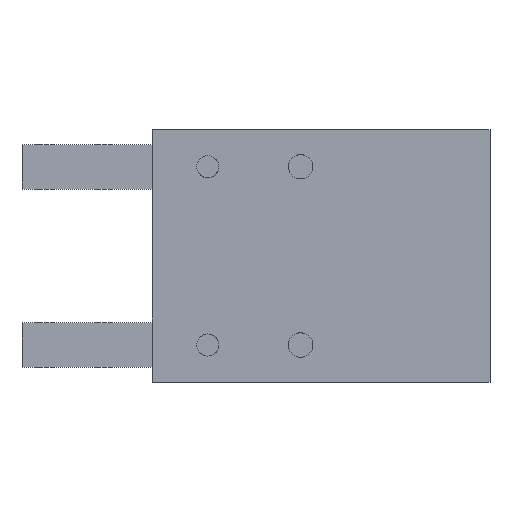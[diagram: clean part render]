
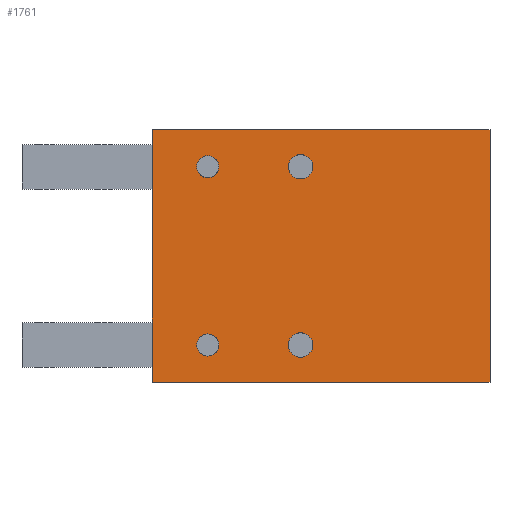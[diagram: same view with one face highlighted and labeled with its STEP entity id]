
A CAD part, top view. The second image highlights one B-rep face of the part: STEP entity #1761.
In plain terms, the highlighted planar face has unit normal (0, 0, 1).
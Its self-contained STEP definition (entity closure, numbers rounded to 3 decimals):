
#1 = ORIENTED_EDGE ( 'NONE', *, *, #929, .T. ) ;
#80 = CARTESIAN_POINT ( 'NONE',  ( 22.75, -17., 11. ) ) ;
#144 = ORIENTED_EDGE ( 'NONE', *, *, #2834, .F. ) ;
#226 = CARTESIAN_POINT ( 'NONE',  ( -4.4, 12., 11. ) ) ;
#230 = DIRECTION ( 'NONE',  ( 1., 0., 0. ) ) ;
#231 = DIRECTION ( 'NONE',  ( 1., 0., 0. ) ) ;
#242 = DIRECTION ( 'NONE',  ( 0., 0., 1. ) ) ;
#245 = DIRECTION ( 'NONE',  ( 0., 0., 1. ) ) ;
#249 = ORIENTED_EDGE ( 'NONE', *, *, #847, .F. ) ;
#254 = VERTEX_POINT ( 'NONE', #80 ) ;
#261 = CARTESIAN_POINT ( 'NONE',  ( -2.75, -12., 11. ) ) ;
#262 = CARTESIAN_POINT ( 'NONE',  ( -15.25, 12., 11. ) ) ;
#274 = FACE_OUTER_BOUND ( 'NONE', #2017, .T. ) ;
#305 = DIRECTION ( 'NONE',  ( 1., 0., 0. ) ) ;
#320 = DIRECTION ( 'NONE',  ( 0., 0., 1. ) ) ;
#340 = EDGE_CURVE ( 'NONE', #683, #3577, #1038, .T. ) ;
#345 = CARTESIAN_POINT ( 'NONE',  ( -1.1, 12., 11. ) ) ;
#356 = CARTESIAN_POINT ( 'NONE',  ( 22.75, 17., 11. ) ) ;
#361 = VERTEX_POINT ( 'NONE', #3248 ) ;
#371 = VERTEX_POINT ( 'NONE', #3222 ) ;
#375 = CARTESIAN_POINT ( 'NONE',  ( -16.75, -12., 11. ) ) ;
#419 = EDGE_CURVE ( 'NONE', #254, #2730, #617, .T. ) ;
#426 = DIRECTION ( 'NONE',  ( 0., 1., 0. ) ) ;
#487 = CIRCLE ( 'NONE', #3443, 1.5 ) ;
#489 = FACE_BOUND ( 'NONE', #2110, .T. ) ;
#539 = CARTESIAN_POINT ( 'NONE',  ( -15.25, -12., 11. ) ) ;
#557 = VECTOR ( 'NONE', #3012, 1000. ) ;
#617 = LINE ( 'NONE', #3056, #557 ) ;
#618 = CIRCLE ( 'NONE', #1794, 1.65 ) ;
#683 = VERTEX_POINT ( 'NONE', #1708 ) ;
#735 = AXIS2_PLACEMENT_3D ( 'NONE', #3788, #3743, #3711 ) ;
#782 = ORIENTED_EDGE ( 'NONE', *, *, #2533, .F. ) ;
#822 = DIRECTION ( 'NONE',  ( 1., 0., 0. ) ) ;
#832 = DIRECTION ( 'NONE',  ( 0., 0., 1. ) ) ;
#842 = CIRCLE ( 'NONE', #735, 1.65 ) ;
#847 = EDGE_CURVE ( 'NONE', #371, #1857, #2119, .T. ) ;
#848 = FACE_BOUND ( 'NONE', #2508, .T. ) ;
#852 = CARTESIAN_POINT ( 'NONE',  ( -15.25, -12., 11. ) ) ;
#866 = DIRECTION ( 'NONE',  ( 1., 0., 0. ) ) ;
#870 = DIRECTION ( 'NONE',  ( 1., 0., 0. ) ) ;
#876 = DIRECTION ( 'NONE',  ( 0., 0., 1. ) ) ;
#879 = DIRECTION ( 'NONE',  ( 0., 0., 1. ) ) ;
#888 = CARTESIAN_POINT ( 'NONE',  ( -2.75, -12., 11. ) ) ;
#890 = VECTOR ( 'NONE', #3294, 1000. ) ;
#893 = CARTESIAN_POINT ( 'NONE',  ( -2.75, 12., 11. ) ) ;
#929 = EDGE_CURVE ( 'NONE', #254, #683, #1369, .T. ) ;
#990 = DIRECTION ( 'NONE',  ( 1., 0., 0. ) ) ;
#1038 = LINE ( 'NONE', #3302, #890 ) ;
#1124 = AXIS2_PLACEMENT_3D ( 'NONE', #888, #876, #870 ) ;
#1149 = AXIS2_PLACEMENT_3D ( 'NONE', #852, #832, #822 ) ;
#1214 = DIRECTION ( 'NONE',  ( 0., 0., 1. ) ) ;
#1226 = CARTESIAN_POINT ( 'NONE',  ( -16.75, 12., 11. ) ) ;
#1232 = CARTESIAN_POINT ( 'NONE',  ( -15.25, 12., 11. ) ) ;
#1262 = ORIENTED_EDGE ( 'NONE', *, *, #2357, .F. ) ;
#1332 = CARTESIAN_POINT ( 'NONE',  ( 22.75, 17., 11. ) ) ;
#1365 = VECTOR ( 'NONE', #426, 1000. ) ;
#1369 = LINE ( 'NONE', #356, #1365 ) ;
#1405 = VERTEX_POINT ( 'NONE', #1226 ) ;
#1482 = CARTESIAN_POINT ( 'NONE',  ( -13.75, -12., 11. ) ) ;
#1505 = CIRCLE ( 'NONE', #1576, 1.5 ) ;
#1530 = CARTESIAN_POINT ( 'NONE',  ( -22.75, 17., 11. ) ) ;
#1538 = ORIENTED_EDGE ( 'NONE', *, *, #419, .F. ) ;
#1568 = EDGE_CURVE ( 'NONE', #1857, #371, #618, .T. ) ;
#1576 = AXIS2_PLACEMENT_3D ( 'NONE', #262, #245, #231 ) ;
#1708 = CARTESIAN_POINT ( 'NONE',  ( 22.75, 17., 11. ) ) ;
#1718 = EDGE_CURVE ( 'NONE', #3507, #2966, #842, .T. ) ;
#1761 = ADVANCED_FACE ( 'NONE', ( #489, #3195, #3560, #848, #274 ), #3395, .T. ) ;
#1777 = CIRCLE ( 'NONE', #3519, 1.65 ) ;
#1794 = AXIS2_PLACEMENT_3D ( 'NONE', #261, #242, #230 ) ;
#1807 = ORIENTED_EDGE ( 'NONE', *, *, #2654, .F. ) ;
#1821 = DIRECTION ( 'NONE',  ( 0., 1., 0. ) ) ;
#1857 = VERTEX_POINT ( 'NONE', #2429 ) ;
#1926 = EDGE_LOOP ( 'NONE', ( #3657, #782 ) ) ;
#1964 = CIRCLE ( 'NONE', #3132, 1.5 ) ;
#2017 = EDGE_LOOP ( 'NONE', ( #1807, #1538, #1, #2894 ) ) ;
#2091 = VERTEX_POINT ( 'NONE', #375 ) ;
#2110 = EDGE_LOOP ( 'NONE', ( #1262, #144 ) ) ;
#2117 = AXIS2_PLACEMENT_3D ( 'NONE', #1332, #3314, #3301 ) ;
#2119 = CIRCLE ( 'NONE', #1124, 1.65 ) ;
#2284 = VERTEX_POINT ( 'NONE', #1482 ) ;
#2288 = LINE ( 'NONE', #1530, #3557 ) ;
#2327 = EDGE_CURVE ( 'NONE', #2284, #2091, #3730, .T. ) ;
#2357 = EDGE_CURVE ( 'NONE', #361, #1405, #1505, .T. ) ;
#2377 = EDGE_LOOP ( 'NONE', ( #3758, #2792 ) ) ;
#2402 = EDGE_CURVE ( 'NONE', #2091, #2284, #1964, .T. ) ;
#2429 = CARTESIAN_POINT ( 'NONE',  ( -4.4, -12., 11. ) ) ;
#2508 = EDGE_LOOP ( 'NONE', ( #249, #2674 ) ) ;
#2533 = EDGE_CURVE ( 'NONE', #2966, #3507, #1777, .T. ) ;
#2654 = EDGE_CURVE ( 'NONE', #2730, #3577, #2288, .T. ) ;
#2674 = ORIENTED_EDGE ( 'NONE', *, *, #1568, .F. ) ;
#2730 = VERTEX_POINT ( 'NONE', #2776 ) ;
#2776 = CARTESIAN_POINT ( 'NONE',  ( -22.75, -17., 11. ) ) ;
#2792 = ORIENTED_EDGE ( 'NONE', *, *, #2402, .F. ) ;
#2834 = EDGE_CURVE ( 'NONE', #1405, #361, #487, .T. ) ;
#2894 = ORIENTED_EDGE ( 'NONE', *, *, #340, .T. ) ;
#2966 = VERTEX_POINT ( 'NONE', #226 ) ;
#3012 = DIRECTION ( 'NONE',  ( -1., 0., 0. ) ) ;
#3056 = CARTESIAN_POINT ( 'NONE',  ( 22.75, -17., 11. ) ) ;
#3132 = AXIS2_PLACEMENT_3D ( 'NONE', #539, #320, #305 ) ;
#3195 = FACE_BOUND ( 'NONE', #2377, .T. ) ;
#3222 = CARTESIAN_POINT ( 'NONE',  ( -1.1, -12., 11. ) ) ;
#3248 = CARTESIAN_POINT ( 'NONE',  ( -13.75, 12., 11. ) ) ;
#3294 = DIRECTION ( 'NONE',  ( -1., 0., 0. ) ) ;
#3301 = DIRECTION ( 'NONE',  ( 1., 0., 0. ) ) ;
#3302 = CARTESIAN_POINT ( 'NONE',  ( 22.75, 17., 11. ) ) ;
#3314 = DIRECTION ( 'NONE',  ( 0., 0., 1. ) ) ;
#3395 = PLANE ( 'NONE',  #2117 ) ;
#3443 = AXIS2_PLACEMENT_3D ( 'NONE', #1232, #1214, #990 ) ;
#3481 = CARTESIAN_POINT ( 'NONE',  ( -22.75, 17., 11. ) ) ;
#3507 = VERTEX_POINT ( 'NONE', #345 ) ;
#3519 = AXIS2_PLACEMENT_3D ( 'NONE', #893, #879, #866 ) ;
#3557 = VECTOR ( 'NONE', #1821, 1000. ) ;
#3560 = FACE_BOUND ( 'NONE', #1926, .T. ) ;
#3577 = VERTEX_POINT ( 'NONE', #3481 ) ;
#3657 = ORIENTED_EDGE ( 'NONE', *, *, #1718, .F. ) ;
#3711 = DIRECTION ( 'NONE',  ( 1., 0., 0. ) ) ;
#3730 = CIRCLE ( 'NONE', #1149, 1.5 ) ;
#3743 = DIRECTION ( 'NONE',  ( 0., 0., 1. ) ) ;
#3758 = ORIENTED_EDGE ( 'NONE', *, *, #2327, .F. ) ;
#3788 = CARTESIAN_POINT ( 'NONE',  ( -2.75, 12., 11. ) ) ;
